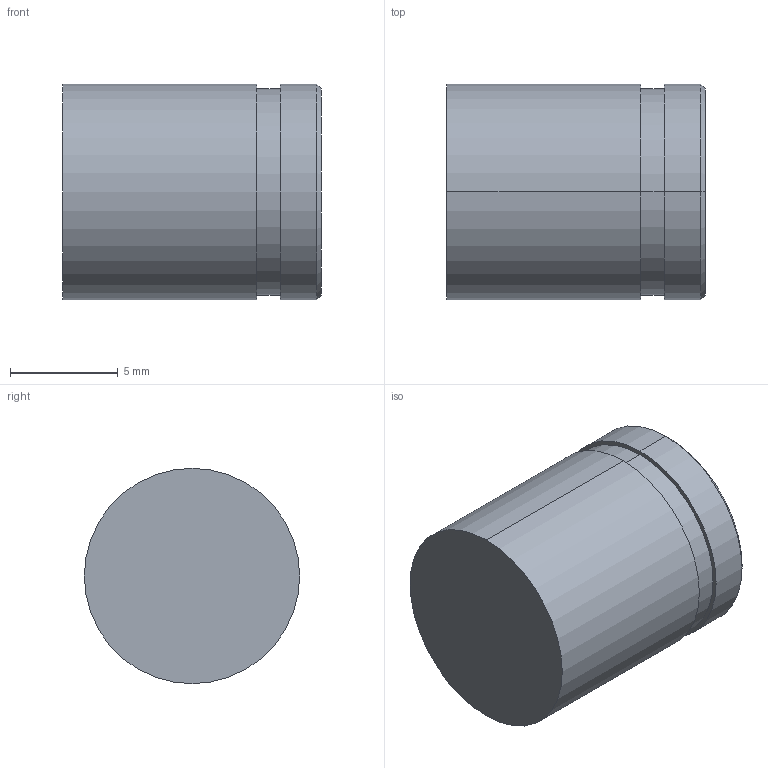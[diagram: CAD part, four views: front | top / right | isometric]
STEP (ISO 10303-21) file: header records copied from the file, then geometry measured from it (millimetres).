
FILE_DESCRIPTION (( 'STEP AP203' ), '1' );
FILE_NAME ('S5-10.STEP', '2002-08-16T10:50:56', ( '.' ), ( '.' ), 'SwSTEP 2.0', 'SolidWorks 2001340', '' );
FILE_SCHEMA (( 'CONFIG_CONTROL_DESIGN' ));
Length unit declared in the file: millimetre
Products named in the file (1): S5-10
Bounding box: 12 x 10 x 10 mm (x, y, z)
Volume: 935.1 mm3; surface area: 541.3 mm2
Topology: 1 solids, 1 shells, 12 faces, 22 edges, 14 vertices
Faces by surface type: cylinder 6, plane 4, cone 2
Entity records: 381 total; most frequent: DIRECTION 62, CARTESIAN_POINT 49, ORIENTED_EDGE 44, AXIS2_PLACEMENT_3D 27, EDGE_CURVE 22, VERTEX_POINT 14, EDGE_LOOP 14, CIRCLE 14
